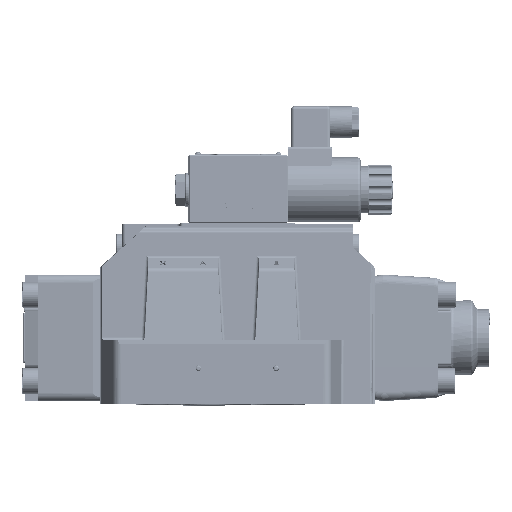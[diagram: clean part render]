
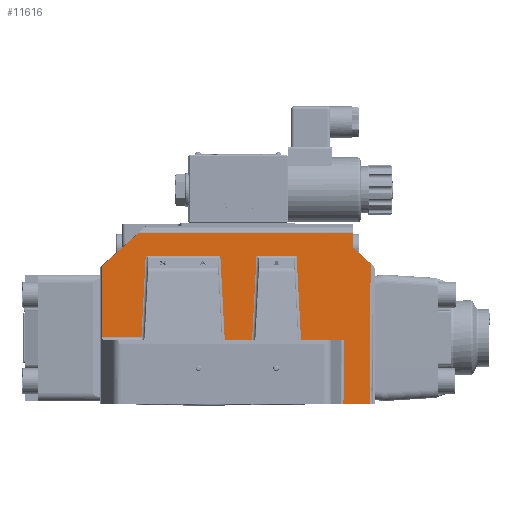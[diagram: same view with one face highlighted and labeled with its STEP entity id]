
A CAD part, front view. The second image highlights one B-rep face of the part: STEP entity #11616.
In plain terms, the highlighted planar face has unit normal (0.006, -1, 0.017).
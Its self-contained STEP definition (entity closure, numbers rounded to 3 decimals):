
#672=ELLIPSE('',#33520,93.126,1.539);
#673=ELLIPSE('',#33521,242.033,4.);
#3343=FACE_OUTER_BOUND('',#14565,.T.);
#6003=PLANE('',#33522);
#7040=LINE('',#45750,#9078);
#7058=LINE('',#45826,#9096);
#7069=LINE('',#45885,#9107);
#7075=LINE('',#45941,#9113);
#7083=LINE('',#45980,#9121);
#7094=LINE('',#46039,#9132);
#7115=LINE('',#46195,#9153);
#7118=LINE('',#46201,#9156);
#7119=LINE('',#46207,#9157);
#7122=LINE('',#46211,#9160);
#7123=LINE('',#46215,#9161);
#7129=LINE('',#46234,#9167);
#7130=LINE('',#46236,#9168);
#7131=LINE('',#46238,#9169);
#7161=LINE('',#46495,#9199);
#7162=LINE('',#46497,#9200);
#9078=VECTOR('',#36652,1.);
#9096=VECTOR('',#36718,1.);
#9107=VECTOR('',#36773,1.);
#9113=VECTOR('',#36795,1.);
#9121=VECTOR('',#36829,1.);
#9132=VECTOR('',#36858,1.);
#9153=VECTOR('',#36939,1.);
#9156=VECTOR('',#36946,1.);
#9157=VECTOR('',#36953,1.);
#9160=VECTOR('',#36958,1.);
#9161=VECTOR('',#36963,1.);
#9167=VECTOR('',#36993,1.);
#9168=VECTOR('',#36996,1.);
#9169=VECTOR('',#36999,1.);
#9199=VECTOR('',#37099,1.);
#9200=VECTOR('',#37102,1.);
#11616=ADVANCED_FACE('',(#3343),#6003,.F.);
#14565=EDGE_LOOP('',(#17954,#17955,#17956,#17957,#17958,#17959,#17960,#17961,
#17962,#17963,#17964,#17965,#17966,#17967,#17968,#17969,#17970,#17971));
#17954=ORIENTED_EDGE('',*,*,#28480,.F.);
#17955=ORIENTED_EDGE('',*,*,#28746,.T.);
#17956=ORIENTED_EDGE('',*,*,#28732,.F.);
#17957=ORIENTED_EDGE('',*,*,#28648,.T.);
#17958=ORIENTED_EDGE('',*,*,#28660,.T.);
#17959=ORIENTED_EDGE('',*,*,#28672,.T.);
#17960=ORIENTED_EDGE('',*,*,#28658,.T.);
#17961=ORIENTED_EDGE('',*,*,#28514,.T.);
#17962=ORIENTED_EDGE('',*,*,#28655,.T.);
#17963=ORIENTED_EDGE('',*,*,#28671,.T.);
#17964=ORIENTED_EDGE('',*,*,#28652,.T.);
#17965=ORIENTED_EDGE('',*,*,#28541,.F.);
#17966=ORIENTED_EDGE('',*,*,#28731,.T.);
#17967=ORIENTED_EDGE('',*,*,#28556,.T.);
#17968=ORIENTED_EDGE('',*,*,#28747,.F.);
#17969=ORIENTED_EDGE('',*,*,#28576,.F.);
#17970=ORIENTED_EDGE('',*,*,#28597,.F.);
#17971=ORIENTED_EDGE('',*,*,#28673,.F.);
#25450=VERTEX_POINT('',#45749);
#25451=VERTEX_POINT('',#45751);
#25484=VERTEX_POINT('',#45825);
#25485=VERTEX_POINT('',#45827);
#25511=VERTEX_POINT('',#45886);
#25512=VERTEX_POINT('',#45887);
#25526=VERTEX_POINT('',#45940);
#25527=VERTEX_POINT('',#45942);
#25544=VERTEX_POINT('',#45979);
#25545=VERTEX_POINT('',#45981);
#25563=VERTEX_POINT('',#46038);
#25592=VERTEX_POINT('',#46185);
#25595=VERTEX_POINT('',#46196);
#25596=VERTEX_POINT('',#46202);
#25597=VERTEX_POINT('',#46206);
#25598=VERTEX_POINT('',#46212);
#25599=VERTEX_POINT('',#46216);
#25640=VERTEX_POINT('',#46498);
#28480=EDGE_CURVE('',#25450,#25451,#7040,.T.);
#28514=EDGE_CURVE('',#25485,#25484,#7058,.T.);
#28541=EDGE_CURVE('',#25511,#25512,#7069,.T.);
#28556=EDGE_CURVE('',#25527,#25526,#7075,.T.);
#28576=EDGE_CURVE('',#25544,#25545,#7083,.T.);
#28597=EDGE_CURVE('',#25563,#25544,#7094,.T.);
#28648=EDGE_CURVE('',#25595,#25592,#7115,.T.);
#28652=EDGE_CURVE('',#25596,#25512,#7118,.T.);
#28655=EDGE_CURVE('',#25484,#25597,#7119,.T.);
#28658=EDGE_CURVE('',#25598,#25485,#7122,.T.);
#28660=EDGE_CURVE('',#25592,#25599,#7123,.T.);
#28671=EDGE_CURVE('',#25597,#25596,#7129,.T.);
#28672=EDGE_CURVE('',#25599,#25598,#7130,.T.);
#28673=EDGE_CURVE('',#25451,#25563,#7131,.T.);
#28731=EDGE_CURVE('',#25511,#25527,#7161,.T.);
#28732=EDGE_CURVE('',#25595,#25640,#7162,.T.);
#28746=EDGE_CURVE('',#25450,#25640,#672,.T.);
#28747=EDGE_CURVE('',#25545,#25526,#673,.T.);
#33520=AXIS2_PLACEMENT_3D('',#46521,#37124,#37125);
#33521=AXIS2_PLACEMENT_3D('',#46522,#37126,#37127);
#33522=AXIS2_PLACEMENT_3D('',#46523,#37128,#37129);
#36652=DIRECTION('',(0.742,0.016,0.67));
#36718=DIRECTION('',(1.,0.007,0.));
#36773=DIRECTION('',(-1.,-0.007,0.));
#36795=DIRECTION('',(1.,0.007,0.));
#36829=DIRECTION('',(0.742,-0.006,-0.67));
#36858=DIRECTION('',(0.,-0.017,-1.));
#36939=DIRECTION('',(1.,0.007,0.));
#36946=DIRECTION('',(0.052,-0.016,-0.998));
#36953=DIRECTION('',(0.052,0.017,0.998));
#36958=DIRECTION('',(0.052,-0.016,-0.998));
#36963=DIRECTION('',(0.052,0.017,0.998));
#36993=DIRECTION('',(1.,0.007,0.));
#36996=DIRECTION('',(1.,0.007,0.));
#36999=DIRECTION('',(1.,0.007,0.));
#37099=DIRECTION('',(-0.006,-0.017,-1.));
#37102=DIRECTION('',(-0.006,0.016,1.));
#37124=DIRECTION('',(-0.007,1.,-0.017));
#37125=DIRECTION('',(0.,-0.017,-1.));
#37126=DIRECTION('',(0.007,-1.,0.017));
#37127=DIRECTION('',(0.,-0.017,-1.));
#37128=DIRECTION('',(-0.007,1.,-0.017));
#37129=DIRECTION('',(1.,0.007,0.));
#45749=CARTESIAN_POINT('',(232.936,166.568,95.904));
#45750=CARTESIAN_POINT('',(247.23,166.874,108.816));
#45751=CARTESIAN_POINT('',(258.541,167.117,119.033));
#45825=CARTESIAN_POINT('',(337.433,166.398,44.5));
#45826=CARTESIAN_POINT('',(343.979,166.441,44.5));
#45827=CARTESIAN_POINT('',(318.445,166.275,44.5));
#45885=CARTESIAN_POINT('',(386.78,166.72,44.5));
#45886=CARTESIAN_POINT('',(401.225,166.814,44.5));
#45887=CARTESIAN_POINT('',(371.444,166.62,44.5));
#45940=CARTESIAN_POINT('',(419.069,166.194,0.));
#45941=CARTESIAN_POINT('',(401.329,166.079,0.));
#45942=CARTESIAN_POINT('',(400.954,166.076,0.));
#45979=CARTESIAN_POINT('',(407.431,167.92,109.));
#45980=CARTESIAN_POINT('',(422.475,167.793,95.413));
#45981=CARTESIAN_POINT('',(419.905,167.815,97.734));
#46038=CARTESIAN_POINT('',(407.43,168.086,119.033));
#46039=CARTESIAN_POINT('',(407.431,167.913,108.59));
#46185=CARTESIAN_POINT('',(260.538,165.93,46.467));
#46195=CARTESIAN_POINT('',(231.403,165.741,46.467));
#46196=CARTESIAN_POINT('',(233.216,165.753,46.467));
#46201=CARTESIAN_POINT('',(367.266,167.91,124.201));
#46202=CARTESIAN_POINT('',(368.364,167.571,103.266));
#46206=CARTESIAN_POINT('',(340.501,167.39,103.266));
#46207=CARTESIAN_POINT('',(340.011,167.231,93.869));
#46211=CARTESIAN_POINT('',(314.412,167.52,121.437));
#46212=CARTESIAN_POINT('',(315.365,167.226,103.266));
#46215=CARTESIAN_POINT('',(263.045,166.741,94.5));
#46216=CARTESIAN_POINT('',(263.503,166.889,103.266));
#46234=CARTESIAN_POINT('',(401.317,167.785,103.266));
#46236=CARTESIAN_POINT('',(401.317,167.785,103.266));
#46238=CARTESIAN_POINT('',(231.933,166.944,119.033));
#46495=CARTESIAN_POINT('',(401.721,168.163,125.957));
#46497=CARTESIAN_POINT('',(232.731,167.047,124.959));
#46498=CARTESIAN_POINT('',(232.936,166.499,91.706));
#46521=CARTESIAN_POINT('',(231.398,166.531,94.271));
#46522=CARTESIAN_POINT('',(422.949,165.22,-60.483));
#46523=CARTESIAN_POINT('',(401.315,168.161,125.982));
